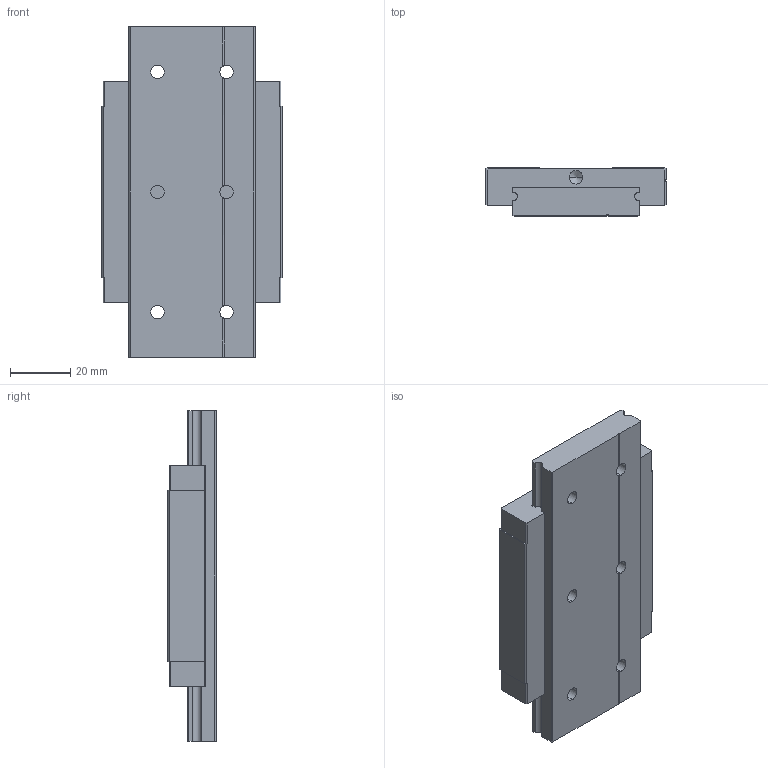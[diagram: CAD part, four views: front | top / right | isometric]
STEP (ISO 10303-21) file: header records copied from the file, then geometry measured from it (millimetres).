
FILE_DESCRIPTION (( 'STEP AP214' ), '1' );
FILE_NAME ('7.1053 Lineaarikelkka MTW15H.STEP', '2026-03-16T08:00:29', ( '' ), ( '' ), 'SwSTEP 2.0', 'SolidWorks 2025', '' );
FILE_SCHEMA (( 'AUTOMOTIVE_DESIGN' ));
Length unit declared in the file: millimetre
Products named in the file (1): 7.1053 Lineaarikelkka MTW15H
Bounding box: 60 x 16 x 110 mm (x, y, z)
Volume: 77379.6 mm3; surface area: 26493 mm2
Topology: 2 solids, 2 shells, 230 faces, 621 edges, 404 vertices
Faces by surface type: plane 147, cylinder 48, bspline 23, cone 12
Entity records: 11299 total; most frequent: CARTESIAN_POINT 3069, ORIENTED_EDGE 1218, DIRECTION 1069, EDGE_CURVE 609, VECTOR 461, LINE 461, VERTEX_POINT 404, AXIS2_PLACEMENT_3D 304
